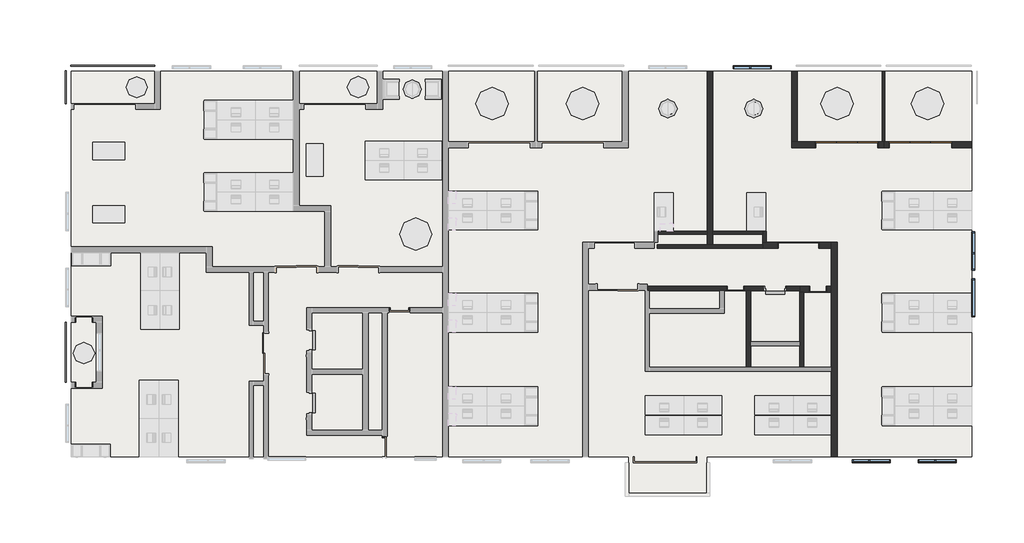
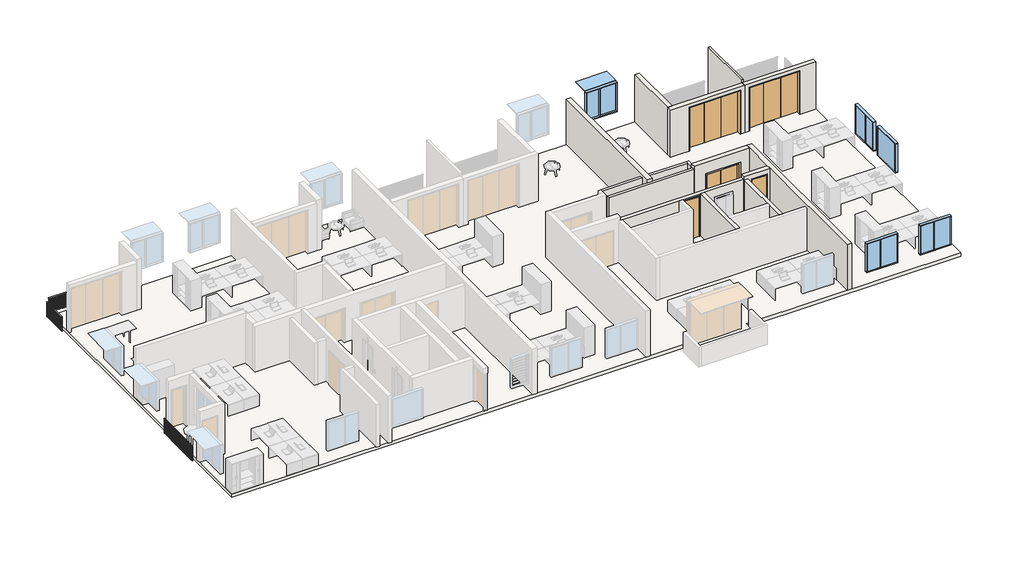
# One storey, part 2 of 5: 14 walls, 5 doors, 5 windows, 3 railings, 1 slab.
"""IFC4 building model written with IfcOpenShell, lengths in millimetres."""

from ifc_helpers import new_model, si_unit, point, frame, frame_2d, origin, place, context, project, spatial, polyline, circle_curve, trimmed, segment, composite_curve, outline, extrude, faceted_brep, transform, mapped, element, save
from components import bi_fold_dor_3_panel_3000_75a00cad, bi_fold_dor_3_panel_3000_5813971a, swing_double_metal_frame_double_2040_x_970x2_2b0cb67a, swing_metal_frame_single_dor1_c5ce34d2, swing_metal_frame_single_dor1_8b558513, window_bottom_hung_window_bottom_hung_3b05c637, window_bottom_hung_window_bottom_hung_da071f07, window_bottom_hung_window_bottom_hung_7567f9e0, window_fixed_1800mm_wide_7e584eee

model = new_model("IFC4")

# Units and contexts
model_context = context("Model", 3, world=origin())
ifc_project = project(units=[si_unit("LENGTHUNIT", "METRE", prefix="MILLI")], contexts=[model_context])

# Site, building, storey
site = spatial("IfcSite", under=ifc_project)
building = spatial("IfcBuilding", under=site)
storey = spatial("IfcBuildingStorey", under=building, Name="2階", Elevation=33000.0)

# Doors
placement = place(None, origin())
bi_fold_dor_3_panel_3000_shape = bi_fold_dor_3_panel_3000_75a00cad(model_context)
element("IfcDoor", 1, ObjectType="Bi Fold_DOR : 3 Panel - 3000", at=placement, inside=storey, context=model_context, shape_type="MappedRepresentation", body=[
    mapped(bi_fold_dor_3_panel_3000_shape, transform((42564.858031, 14994.8875971, 33000.0), x_axis=(1.0, 0.0, 0.0), y_axis=(0.0, 1.0, 0.0), z_axis=(0.0, 0.0, 1.0))),
])
bi_fold_dor_3_panel_3000_2_shape = bi_fold_dor_3_panel_3000_5813971a(model_context)
element("IfcDoor", 2, ObjectType="Bi Fold_DOR : 3 Panel - 3000", at=placement, inside=storey, context=model_context, shape_type="MappedRepresentation", body=[
    mapped(bi_fold_dor_3_panel_3000_2_shape, transform((39094.858031, 14994.8875971, 33000.0), x_axis=(-1.0, 0.0, 0.0), y_axis=(0.0, -1.0, 0.0), z_axis=(0.0, 0.0, 1.0))),
])
swing_double_metal_frame_double_2040_x_970x2_shape = swing_double_metal_frame_double_2040_x_970x2_2b0cb67a(model_context)
element("IfcDoor", 3, ObjectType="Swing_Double : Metal Frame Double - 2040 x 970x2", at=placement, inside=storey, context=model_context, shape_type="MappedRepresentation", body=[
    mapped(swing_double_metal_frame_double_2040_x_970x2_shape, transform((37043.6137391, 10265.005792, 33000.0), x_axis=(1.0, 0.0, 0.0), y_axis=(0.0, 1.0, 0.0), z_axis=(0.0, 0.0, 1.0))),
])
swing_metal_frame_single_dor1_shape = swing_metal_frame_single_dor1_c5ce34d2(model_context)
element("IfcDoor", 4, ObjectType="Swing_Metal Frame_Single_DOR1 : 2040h x 820 (2110x920 STUD)", at=placement, inside=storey, context=model_context, shape_type="MappedRepresentation", body=[
    mapped(swing_metal_frame_single_dor1_shape, transform((37747.3119975, 8195.005792, 33000.0), x_axis=(-1.0, 0.0, 0.0), y_axis=(0.0, -1.0, 0.0), z_axis=(0.0, 0.0, 1.0))),
])
swing_metal_frame_single_dor1_2_shape = swing_metal_frame_single_dor1_8b558513(model_context)
element("IfcDoor", 5, ObjectType="Swing_Metal Frame_Single_DOR1 : 2040h x 820 (2110x920 STUD)", at=placement, inside=storey, context=model_context, shape_type="MappedRepresentation", body=[
    mapped(swing_metal_frame_single_dor1_2_shape, transform((33867.3119975, 8230.005792, 33000.0), x_axis=(-1.0, 0.0, 0.0), y_axis=(0.0, -1.0, 0.0), z_axis=(0.0, 0.0, 1.0))),
])

# Railings
element("IfcRailing", 6, ObjectType="900mm", at=placement, inside=storey, context=model_context, shape_type="SweptSolid", body=[
    extrude(outline(composite_curve([segment(trimmed(circle_curve(frame_2d((18700.0, 33880.0)), 20.0), [point((18680.0, 33880.0))], [point((18720.0, 33880.0))], False, "CARTESIAN"), True, "CONTINUOUS"), segment(trimmed(circle_curve(frame_2d((18700.0, 33880.0)), 20.0), [point((18720.0, 33880.0))], [point((18680.0, 33880.0))], False, "CARTESIAN"), True, "CONTINUOUS")], self_intersect=False)), frame((2614.6057353, 0.0, 0.0), z_axis=(1.0, 0.0, 0.0), x_axis=(0.0, 1.0, 0.0)), (0.0, 0.0, 1.0), 3940.0588639),
    extrude(outline(polyline([(6509.6057353, 18695.0), (6509.6057353, 18705.0), (6519.6057353, 18705.0), (6519.6057353, 18695.0), (6509.6057353, 18695.0)])), frame((0.0, 0.0, 33000.0), z_axis=(0.0, 0.0, 1.0), x_axis=(1.0, 0.0, 0.0)), (0.0, 0.0, 1.0), 860.0),
    extrude(outline(polyline([(6409.6057353, 18695.0), (6409.6057353, 18705.0), (6419.6057353, 18705.0), (6419.6057353, 18695.0), (6409.6057353, 18695.0)])), frame((0.0, 0.0, 33000.0), z_axis=(0.0, 0.0, 1.0), x_axis=(1.0, 0.0, 0.0)), (0.0, 0.0, 1.0), 860.0),
    extrude(outline(polyline([(6309.6057353, 18695.0), (6309.6057353, 18705.0), (6319.6057353, 18705.0), (6319.6057353, 18695.0), (6309.6057353, 18695.0)])), frame((0.0, 0.0, 33000.0), z_axis=(0.0, 0.0, 1.0), x_axis=(1.0, 0.0, 0.0)), (0.0, 0.0, 1.0), 860.0),
    extrude(outline(polyline([(6209.6057353, 18695.0), (6209.6057353, 18705.0), (6219.6057353, 18705.0), (6219.6057353, 18695.0), (6209.6057353, 18695.0)])), frame((0.0, 0.0, 33000.0), z_axis=(0.0, 0.0, 1.0), x_axis=(1.0, 0.0, 0.0)), (0.0, 0.0, 1.0), 860.0),
    extrude(outline(polyline([(6109.6057353, 18695.0), (6109.6057353, 18705.0), (6119.6057353, 18705.0), (6119.6057353, 18695.0), (6109.6057353, 18695.0)])), frame((0.0, 0.0, 33000.0), z_axis=(0.0, 0.0, 1.0), x_axis=(1.0, 0.0, 0.0)), (0.0, 0.0, 1.0), 860.0),
    extrude(outline(polyline([(6009.6057353, 18695.0), (6009.6057353, 18705.0), (6019.6057353, 18705.0), (6019.6057353, 18695.0), (6009.6057353, 18695.0)])), frame((0.0, 0.0, 33000.0), z_axis=(0.0, 0.0, 1.0), x_axis=(1.0, 0.0, 0.0)), (0.0, 0.0, 1.0), 860.0),
    extrude(outline(polyline([(5909.6057353, 18695.0), (5909.6057353, 18705.0), (5919.6057353, 18705.0), (5919.6057353, 18695.0), (5909.6057353, 18695.0)])), frame((0.0, 0.0, 33000.0), z_axis=(0.0, 0.0, 1.0), x_axis=(1.0, 0.0, 0.0)), (0.0, 0.0, 1.0), 860.0),
    extrude(outline(polyline([(5809.6057353, 18695.0), (5809.6057353, 18705.0), (5819.6057353, 18705.0), (5819.6057353, 18695.0), (5809.6057353, 18695.0)])), frame((0.0, 0.0, 33000.0), z_axis=(0.0, 0.0, 1.0), x_axis=(1.0, 0.0, 0.0)), (0.0, 0.0, 1.0), 860.0),
    extrude(outline(polyline([(5709.6057353, 18695.0), (5709.6057353, 18705.0), (5719.6057353, 18705.0), (5719.6057353, 18695.0), (5709.6057353, 18695.0)])), frame((0.0, 0.0, 33000.0), z_axis=(0.0, 0.0, 1.0), x_axis=(1.0, 0.0, 0.0)), (0.0, 0.0, 1.0), 860.0),
    extrude(outline(polyline([(5609.6057353, 18695.0), (5609.6057353, 18705.0), (5619.6057353, 18705.0), (5619.6057353, 18695.0), (5609.6057353, 18695.0)])), frame((0.0, 0.0, 33000.0), z_axis=(0.0, 0.0, 1.0), x_axis=(1.0, 0.0, 0.0)), (0.0, 0.0, 1.0), 860.0),
    extrude(outline(polyline([(5509.6057353, 18695.0), (5509.6057353, 18705.0), (5519.6057353, 18705.0), (5519.6057353, 18695.0), (5509.6057353, 18695.0)])), frame((0.0, 0.0, 33000.0), z_axis=(0.0, 0.0, 1.0), x_axis=(1.0, 0.0, 0.0)), (0.0, 0.0, 1.0), 860.0),
    extrude(outline(polyline([(5409.6057353, 18695.0), (5409.6057353, 18705.0), (5419.6057353, 18705.0), (5419.6057353, 18695.0), (5409.6057353, 18695.0)])), frame((0.0, 0.0, 33000.0), z_axis=(0.0, 0.0, 1.0), x_axis=(1.0, 0.0, 0.0)), (0.0, 0.0, 1.0), 860.0),
    extrude(outline(polyline([(5309.6057353, 18695.0), (5309.6057353, 18705.0), (5319.6057353, 18705.0), (5319.6057353, 18695.0), (5309.6057353, 18695.0)])), frame((0.0, 0.0, 33000.0), z_axis=(0.0, 0.0, 1.0), x_axis=(1.0, 0.0, 0.0)), (0.0, 0.0, 1.0), 860.0),
    extrude(outline(polyline([(5209.6057353, 18695.0), (5209.6057353, 18705.0), (5219.6057353, 18705.0), (5219.6057353, 18695.0), (5209.6057353, 18695.0)])), frame((0.0, 0.0, 33000.0), z_axis=(0.0, 0.0, 1.0), x_axis=(1.0, 0.0, 0.0)), (0.0, 0.0, 1.0), 860.0),
    extrude(outline(polyline([(5109.6057353, 18695.0), (5109.6057353, 18705.0), (5119.6057353, 18705.0), (5119.6057353, 18695.0), (5109.6057353, 18695.0)])), frame((0.0, 0.0, 33000.0), z_axis=(0.0, 0.0, 1.0), x_axis=(1.0, 0.0, 0.0)), (0.0, 0.0, 1.0), 860.0),
    extrude(outline(polyline([(5009.6057353, 18695.0), (5009.6057353, 18705.0), (5019.6057353, 18705.0), (5019.6057353, 18695.0), (5009.6057353, 18695.0)])), frame((0.0, 0.0, 33000.0), z_axis=(0.0, 0.0, 1.0), x_axis=(1.0, 0.0, 0.0)), (0.0, 0.0, 1.0), 860.0),
    extrude(outline(polyline([(4909.6057353, 18695.0), (4909.6057353, 18705.0), (4919.6057353, 18705.0), (4919.6057353, 18695.0), (4909.6057353, 18695.0)])), frame((0.0, 0.0, 33000.0), z_axis=(0.0, 0.0, 1.0), x_axis=(1.0, 0.0, 0.0)), (0.0, 0.0, 1.0), 860.0),
    extrude(outline(polyline([(4809.6057353, 18695.0), (4809.6057353, 18705.0), (4819.6057353, 18705.0), (4819.6057353, 18695.0), (4809.6057353, 18695.0)])), frame((0.0, 0.0, 33000.0), z_axis=(0.0, 0.0, 1.0), x_axis=(1.0, 0.0, 0.0)), (0.0, 0.0, 1.0), 860.0),
    extrude(outline(polyline([(4709.6057353, 18695.0), (4709.6057353, 18705.0), (4719.6057353, 18705.0), (4719.6057353, 18695.0), (4709.6057353, 18695.0)])), frame((0.0, 0.0, 33000.0), z_axis=(0.0, 0.0, 1.0), x_axis=(1.0, 0.0, 0.0)), (0.0, 0.0, 1.0), 860.0),
    extrude(outline(polyline([(4609.6057353, 18695.0), (4609.6057353, 18705.0), (4619.6057353, 18705.0), (4619.6057353, 18695.0), (4609.6057353, 18695.0)])), frame((0.0, 0.0, 33000.0), z_axis=(0.0, 0.0, 1.0), x_axis=(1.0, 0.0, 0.0)), (0.0, 0.0, 1.0), 860.0),
    extrude(outline(polyline([(4509.6057353, 18695.0), (4509.6057353, 18705.0), (4519.6057353, 18705.0), (4519.6057353, 18695.0), (4509.6057353, 18695.0)])), frame((0.0, 0.0, 33000.0), z_axis=(0.0, 0.0, 1.0), x_axis=(1.0, 0.0, 0.0)), (0.0, 0.0, 1.0), 860.0),
    extrude(outline(polyline([(4409.6057353, 18695.0), (4409.6057353, 18705.0), (4419.6057353, 18705.0), (4419.6057353, 18695.0), (4409.6057353, 18695.0)])), frame((0.0, 0.0, 33000.0), z_axis=(0.0, 0.0, 1.0), x_axis=(1.0, 0.0, 0.0)), (0.0, 0.0, 1.0), 860.0),
    extrude(outline(polyline([(4309.6057353, 18695.0), (4309.6057353, 18705.0), (4319.6057353, 18705.0), (4319.6057353, 18695.0), (4309.6057353, 18695.0)])), frame((0.0, 0.0, 33000.0), z_axis=(0.0, 0.0, 1.0), x_axis=(1.0, 0.0, 0.0)), (0.0, 0.0, 1.0), 860.0),
    extrude(outline(polyline([(4209.6057353, 18695.0), (4209.6057353, 18705.0), (4219.6057353, 18705.0), (4219.6057353, 18695.0), (4209.6057353, 18695.0)])), frame((0.0, 0.0, 33000.0), z_axis=(0.0, 0.0, 1.0), x_axis=(1.0, 0.0, 0.0)), (0.0, 0.0, 1.0), 860.0),
    extrude(outline(polyline([(4109.6057353, 18695.0), (4109.6057353, 18705.0), (4119.6057353, 18705.0), (4119.6057353, 18695.0), (4109.6057353, 18695.0)])), frame((0.0, 0.0, 33000.0), z_axis=(0.0, 0.0, 1.0), x_axis=(1.0, 0.0, 0.0)), (0.0, 0.0, 1.0), 860.0),
    extrude(outline(polyline([(4009.6057353, 18695.0), (4009.6057353, 18705.0), (4019.6057353, 18705.0), (4019.6057353, 18695.0), (4009.6057353, 18695.0)])), frame((0.0, 0.0, 33000.0), z_axis=(0.0, 0.0, 1.0), x_axis=(1.0, 0.0, 0.0)), (0.0, 0.0, 1.0), 860.0),
    extrude(outline(polyline([(3909.6057353, 18695.0), (3909.6057353, 18705.0), (3919.6057353, 18705.0), (3919.6057353, 18695.0), (3909.6057353, 18695.0)])), frame((0.0, 0.0, 33000.0), z_axis=(0.0, 0.0, 1.0), x_axis=(1.0, 0.0, 0.0)), (0.0, 0.0, 1.0), 860.0),
    extrude(outline(polyline([(3809.6057353, 18695.0), (3809.6057353, 18705.0), (3819.6057353, 18705.0), (3819.6057353, 18695.0), (3809.6057353, 18695.0)])), frame((0.0, 0.0, 33000.0), z_axis=(0.0, 0.0, 1.0), x_axis=(1.0, 0.0, 0.0)), (0.0, 0.0, 1.0), 860.0),
    extrude(outline(polyline([(3709.6057353, 18695.0), (3709.6057353, 18705.0), (3719.6057353, 18705.0), (3719.6057353, 18695.0), (3709.6057353, 18695.0)])), frame((0.0, 0.0, 33000.0), z_axis=(0.0, 0.0, 1.0), x_axis=(1.0, 0.0, 0.0)), (0.0, 0.0, 1.0), 860.0),
    extrude(outline(polyline([(3609.6057353, 18695.0), (3609.6057353, 18705.0), (3619.6057353, 18705.0), (3619.6057353, 18695.0), (3609.6057353, 18695.0)])), frame((0.0, 0.0, 33000.0), z_axis=(0.0, 0.0, 1.0), x_axis=(1.0, 0.0, 0.0)), (0.0, 0.0, 1.0), 860.0),
    extrude(outline(polyline([(3509.6057353, 18695.0), (3509.6057353, 18705.0), (3519.6057353, 18705.0), (3519.6057353, 18695.0), (3509.6057353, 18695.0)])), frame((0.0, 0.0, 33000.0), z_axis=(0.0, 0.0, 1.0), x_axis=(1.0, 0.0, 0.0)), (0.0, 0.0, 1.0), 860.0),
    extrude(outline(polyline([(3409.6057353, 18695.0), (3409.6057353, 18705.0), (3419.6057353, 18705.0), (3419.6057353, 18695.0), (3409.6057353, 18695.0)])), frame((0.0, 0.0, 33000.0), z_axis=(0.0, 0.0, 1.0), x_axis=(1.0, 0.0, 0.0)), (0.0, 0.0, 1.0), 860.0),
    extrude(outline(polyline([(3309.6057353, 18695.0), (3309.6057353, 18705.0), (3319.6057353, 18705.0), (3319.6057353, 18695.0), (3309.6057353, 18695.0)])), frame((0.0, 0.0, 33000.0), z_axis=(0.0, 0.0, 1.0), x_axis=(1.0, 0.0, 0.0)), (0.0, 0.0, 1.0), 860.0),
    extrude(outline(polyline([(3209.6057353, 18695.0), (3209.6057353, 18705.0), (3219.6057353, 18705.0), (3219.6057353, 18695.0), (3209.6057353, 18695.0)])), frame((0.0, 0.0, 33000.0), z_axis=(0.0, 0.0, 1.0), x_axis=(1.0, 0.0, 0.0)), (0.0, 0.0, 1.0), 860.0),
    extrude(outline(polyline([(3109.6057353, 18695.0), (3109.6057353, 18705.0), (3119.6057353, 18705.0), (3119.6057353, 18695.0), (3109.6057353, 18695.0)])), frame((0.0, 0.0, 33000.0), z_axis=(0.0, 0.0, 1.0), x_axis=(1.0, 0.0, 0.0)), (0.0, 0.0, 1.0), 860.0),
    extrude(outline(polyline([(3009.6057353, 18695.0), (3009.6057353, 18705.0), (3019.6057353, 18705.0), (3019.6057353, 18695.0), (3009.6057353, 18695.0)])), frame((0.0, 0.0, 33000.0), z_axis=(0.0, 0.0, 1.0), x_axis=(1.0, 0.0, 0.0)), (0.0, 0.0, 1.0), 860.0),
    extrude(outline(polyline([(2909.6057353, 18695.0), (2909.6057353, 18705.0), (2919.6057353, 18705.0), (2919.6057353, 18695.0), (2909.6057353, 18695.0)])), frame((0.0, 0.0, 33000.0), z_axis=(0.0, 0.0, 1.0), x_axis=(1.0, 0.0, 0.0)), (0.0, 0.0, 1.0), 860.0),
    extrude(outline(polyline([(2809.6057353, 18695.0), (2809.6057353, 18705.0), (2819.6057353, 18705.0), (2819.6057353, 18695.0), (2809.6057353, 18695.0)])), frame((0.0, 0.0, 33000.0), z_axis=(0.0, 0.0, 1.0), x_axis=(1.0, 0.0, 0.0)), (0.0, 0.0, 1.0), 860.0),
    extrude(outline(polyline([(2709.6057353, 18695.0), (2709.6057353, 18705.0), (2719.6057353, 18705.0), (2719.6057353, 18695.0), (2709.6057353, 18695.0)])), frame((0.0, 0.0, 33000.0), z_axis=(0.0, 0.0, 1.0), x_axis=(1.0, 0.0, 0.0)), (0.0, 0.0, 1.0), 860.0),
    extrude(outline(polyline([(6539.6645991, 18695.0), (6539.6645991, 18705.0), (6549.6645991, 18705.0), (6549.6645991, 18695.0), (6539.6645991, 18695.0)])), frame((0.0, 0.0, 33000.0), z_axis=(0.0, 0.0, 1.0), x_axis=(1.0, 0.0, 0.0)), (0.0, 0.0, 1.0), 860.0),
    extrude(outline(polyline([(2619.6057353, 18695.0), (2619.6057353, 18705.0), (2629.6057353, 18705.0), (2629.6057353, 18695.0), (2619.6057353, 18695.0)])), frame((0.0, 0.0, 33000.0), z_axis=(0.0, 0.0, 1.0), x_axis=(1.0, 0.0, 0.0)), (0.0, 0.0, 1.0), 860.0),
])
element("IfcRailing", 7, ObjectType="900mm", at=placement, inside=storey, context=model_context, shape_type="SweptSolid", body=[
    extrude(outline(composite_curve([segment(trimmed(circle_curve(frame_2d((33880.0, 2379.6057353)), 20.0), [point((33880.0, 2399.6057353))], [point((33880.0, 2359.6057353))], False, "CARTESIAN"), True, "CONTINUOUS"), segment(trimmed(circle_curve(frame_2d((33880.0, 2379.6057353)), 20.0), [point((33880.0, 2359.6057353))], [point((33880.0, 2399.6057353))], False, "CARTESIAN"), True, "CONTINUOUS")], self_intersect=False)), frame((0.0, 3816.2680774, 0.0), z_axis=(0.0, 1.0, 0.0), x_axis=(0.0, 0.0, 1.0)), (0.0, 0.0, 1.0), 2834.048622),
    extrude(outline(polyline([(2384.6057353, 6611.2680774), (2374.6057353, 6611.2680774), (2374.6057353, 6621.2680774), (2384.6057353, 6621.2680774), (2384.6057353, 6611.2680774)])), frame((0.0, 0.0, 33000.0), z_axis=(0.0, 0.0, 1.0), x_axis=(1.0, 0.0, 0.0)), (0.0, 0.0, 1.0), 860.0),
    extrude(outline(polyline([(2384.6057353, 6511.2680774), (2374.6057353, 6511.2680774), (2374.6057353, 6521.2680774), (2384.6057353, 6521.2680774), (2384.6057353, 6511.2680774)])), frame((0.0, 0.0, 33000.0), z_axis=(0.0, 0.0, 1.0), x_axis=(1.0, 0.0, 0.0)), (0.0, 0.0, 1.0), 860.0),
    extrude(outline(polyline([(2384.6057353, 6411.2680774), (2374.6057353, 6411.2680774), (2374.6057353, 6421.2680774), (2384.6057353, 6421.2680774), (2384.6057353, 6411.2680774)])), frame((0.0, 0.0, 33000.0), z_axis=(0.0, 0.0, 1.0), x_axis=(1.0, 0.0, 0.0)), (0.0, 0.0, 1.0), 860.0),
    extrude(outline(polyline([(2384.6057353, 6311.2680774), (2374.6057353, 6311.2680774), (2374.6057353, 6321.2680774), (2384.6057353, 6321.2680774), (2384.6057353, 6311.2680774)])), frame((0.0, 0.0, 33000.0), z_axis=(0.0, 0.0, 1.0), x_axis=(1.0, 0.0, 0.0)), (0.0, 0.0, 1.0), 860.0),
    extrude(outline(polyline([(2384.6057353, 6211.2680774), (2374.6057353, 6211.2680774), (2374.6057353, 6221.2680774), (2384.6057353, 6221.2680774), (2384.6057353, 6211.2680774)])), frame((0.0, 0.0, 33000.0), z_axis=(0.0, 0.0, 1.0), x_axis=(1.0, 0.0, 0.0)), (0.0, 0.0, 1.0), 860.0),
    extrude(outline(polyline([(2384.6057353, 6111.2680774), (2374.6057353, 6111.2680774), (2374.6057353, 6121.2680774), (2384.6057353, 6121.2680774), (2384.6057353, 6111.2680774)])), frame((0.0, 0.0, 33000.0), z_axis=(0.0, 0.0, 1.0), x_axis=(1.0, 0.0, 0.0)), (0.0, 0.0, 1.0), 860.0),
    extrude(outline(polyline([(2384.6057353, 6011.2680774), (2374.6057353, 6011.2680774), (2374.6057353, 6021.2680774), (2384.6057353, 6021.2680774), (2384.6057353, 6011.2680774)])), frame((0.0, 0.0, 33000.0), z_axis=(0.0, 0.0, 1.0), x_axis=(1.0, 0.0, 0.0)), (0.0, 0.0, 1.0), 860.0),
    extrude(outline(polyline([(2384.6057353, 5911.2680774), (2374.6057353, 5911.2680774), (2374.6057353, 5921.2680774), (2384.6057353, 5921.2680774), (2384.6057353, 5911.2680774)])), frame((0.0, 0.0, 33000.0), z_axis=(0.0, 0.0, 1.0), x_axis=(1.0, 0.0, 0.0)), (0.0, 0.0, 1.0), 860.0),
    extrude(outline(polyline([(2384.6057353, 5811.2680774), (2374.6057353, 5811.2680774), (2374.6057353, 5821.2680774), (2384.6057353, 5821.2680774), (2384.6057353, 5811.2680774)])), frame((0.0, 0.0, 33000.0), z_axis=(0.0, 0.0, 1.0), x_axis=(1.0, 0.0, 0.0)), (0.0, 0.0, 1.0), 860.0),
    extrude(outline(polyline([(2384.6057353, 5711.2680774), (2374.6057353, 5711.2680774), (2374.6057353, 5721.2680774), (2384.6057353, 5721.2680774), (2384.6057353, 5711.2680774)])), frame((0.0, 0.0, 33000.0), z_axis=(0.0, 0.0, 1.0), x_axis=(1.0, 0.0, 0.0)), (0.0, 0.0, 1.0), 860.0),
    extrude(outline(polyline([(2384.6057353, 5611.2680774), (2374.6057353, 5611.2680774), (2374.6057353, 5621.2680774), (2384.6057353, 5621.2680774), (2384.6057353, 5611.2680774)])), frame((0.0, 0.0, 33000.0), z_axis=(0.0, 0.0, 1.0), x_axis=(1.0, 0.0, 0.0)), (0.0, 0.0, 1.0), 860.0),
    extrude(outline(polyline([(2384.6057353, 5511.2680774), (2374.6057353, 5511.2680774), (2374.6057353, 5521.2680774), (2384.6057353, 5521.2680774), (2384.6057353, 5511.2680774)])), frame((0.0, 0.0, 33000.0), z_axis=(0.0, 0.0, 1.0), x_axis=(1.0, 0.0, 0.0)), (0.0, 0.0, 1.0), 860.0),
    extrude(outline(polyline([(2384.6057353, 5411.2680774), (2374.6057353, 5411.2680774), (2374.6057353, 5421.2680774), (2384.6057353, 5421.2680774), (2384.6057353, 5411.2680774)])), frame((0.0, 0.0, 33000.0), z_axis=(0.0, 0.0, 1.0), x_axis=(1.0, 0.0, 0.0)), (0.0, 0.0, 1.0), 860.0),
    extrude(outline(polyline([(2384.6057353, 5311.2680774), (2374.6057353, 5311.2680774), (2374.6057353, 5321.2680774), (2384.6057353, 5321.2680774), (2384.6057353, 5311.2680774)])), frame((0.0, 0.0, 33000.0), z_axis=(0.0, 0.0, 1.0), x_axis=(1.0, 0.0, 0.0)), (0.0, 0.0, 1.0), 860.0),
    extrude(outline(polyline([(2384.6057353, 5211.2680774), (2374.6057353, 5211.2680774), (2374.6057353, 5221.2680774), (2384.6057353, 5221.2680774), (2384.6057353, 5211.2680774)])), frame((0.0, 0.0, 33000.0), z_axis=(0.0, 0.0, 1.0), x_axis=(1.0, 0.0, 0.0)), (0.0, 0.0, 1.0), 860.0),
    extrude(outline(polyline([(2384.6057353, 5111.2680774), (2374.6057353, 5111.2680774), (2374.6057353, 5121.2680774), (2384.6057353, 5121.2680774), (2384.6057353, 5111.2680774)])), frame((0.0, 0.0, 33000.0), z_axis=(0.0, 0.0, 1.0), x_axis=(1.0, 0.0, 0.0)), (0.0, 0.0, 1.0), 860.0),
    extrude(outline(polyline([(2384.6057353, 5011.2680774), (2374.6057353, 5011.2680774), (2374.6057353, 5021.2680774), (2384.6057353, 5021.2680774), (2384.6057353, 5011.2680774)])), frame((0.0, 0.0, 33000.0), z_axis=(0.0, 0.0, 1.0), x_axis=(1.0, 0.0, 0.0)), (0.0, 0.0, 1.0), 860.0),
    extrude(outline(polyline([(2384.6057353, 4911.2680774), (2374.6057353, 4911.2680774), (2374.6057353, 4921.2680774), (2384.6057353, 4921.2680774), (2384.6057353, 4911.2680774)])), frame((0.0, 0.0, 33000.0), z_axis=(0.0, 0.0, 1.0), x_axis=(1.0, 0.0, 0.0)), (0.0, 0.0, 1.0), 860.0),
    extrude(outline(polyline([(2384.6057353, 4811.2680774), (2374.6057353, 4811.2680774), (2374.6057353, 4821.2680774), (2384.6057353, 4821.2680774), (2384.6057353, 4811.2680774)])), frame((0.0, 0.0, 33000.0), z_axis=(0.0, 0.0, 1.0), x_axis=(1.0, 0.0, 0.0)), (0.0, 0.0, 1.0), 860.0),
    extrude(outline(polyline([(2384.6057353, 4711.2680774), (2374.6057353, 4711.2680774), (2374.6057353, 4721.2680774), (2384.6057353, 4721.2680774), (2384.6057353, 4711.2680774)])), frame((0.0, 0.0, 33000.0), z_axis=(0.0, 0.0, 1.0), x_axis=(1.0, 0.0, 0.0)), (0.0, 0.0, 1.0), 860.0),
    extrude(outline(polyline([(2384.6057353, 4611.2680774), (2374.6057353, 4611.2680774), (2374.6057353, 4621.2680774), (2384.6057353, 4621.2680774), (2384.6057353, 4611.2680774)])), frame((0.0, 0.0, 33000.0), z_axis=(0.0, 0.0, 1.0), x_axis=(1.0, 0.0, 0.0)), (0.0, 0.0, 1.0), 860.0),
    extrude(outline(polyline([(2384.6057353, 4511.2680774), (2374.6057353, 4511.2680774), (2374.6057353, 4521.2680774), (2384.6057353, 4521.2680774), (2384.6057353, 4511.2680774)])), frame((0.0, 0.0, 33000.0), z_axis=(0.0, 0.0, 1.0), x_axis=(1.0, 0.0, 0.0)), (0.0, 0.0, 1.0), 860.0),
    extrude(outline(polyline([(2384.6057353, 4411.2680774), (2374.6057353, 4411.2680774), (2374.6057353, 4421.2680774), (2384.6057353, 4421.2680774), (2384.6057353, 4411.2680774)])), frame((0.0, 0.0, 33000.0), z_axis=(0.0, 0.0, 1.0), x_axis=(1.0, 0.0, 0.0)), (0.0, 0.0, 1.0), 860.0),
    extrude(outline(polyline([(2384.6057353, 4311.2680774), (2374.6057353, 4311.2680774), (2374.6057353, 4321.2680774), (2384.6057353, 4321.2680774), (2384.6057353, 4311.2680774)])), frame((0.0, 0.0, 33000.0), z_axis=(0.0, 0.0, 1.0), x_axis=(1.0, 0.0, 0.0)), (0.0, 0.0, 1.0), 860.0),
    extrude(outline(polyline([(2384.6057353, 4211.2680774), (2374.6057353, 4211.2680774), (2374.6057353, 4221.2680774), (2384.6057353, 4221.2680774), (2384.6057353, 4211.2680774)])), frame((0.0, 0.0, 33000.0), z_axis=(0.0, 0.0, 1.0), x_axis=(1.0, 0.0, 0.0)), (0.0, 0.0, 1.0), 860.0),
    extrude(outline(polyline([(2384.6057353, 4111.2680774), (2374.6057353, 4111.2680774), (2374.6057353, 4121.2680774), (2384.6057353, 4121.2680774), (2384.6057353, 4111.2680774)])), frame((0.0, 0.0, 33000.0), z_axis=(0.0, 0.0, 1.0), x_axis=(1.0, 0.0, 0.0)), (0.0, 0.0, 1.0), 860.0),
    extrude(outline(polyline([(2384.6057353, 4011.2680774), (2374.6057353, 4011.2680774), (2374.6057353, 4021.2680774), (2384.6057353, 4021.2680774), (2384.6057353, 4011.2680774)])), frame((0.0, 0.0, 33000.0), z_axis=(0.0, 0.0, 1.0), x_axis=(1.0, 0.0, 0.0)), (0.0, 0.0, 1.0), 860.0),
    extrude(outline(polyline([(2384.6057353, 3911.2680774), (2374.6057353, 3911.2680774), (2374.6057353, 3921.2680774), (2384.6057353, 3921.2680774), (2384.6057353, 3911.2680774)])), frame((0.0, 0.0, 33000.0), z_axis=(0.0, 0.0, 1.0), x_axis=(1.0, 0.0, 0.0)), (0.0, 0.0, 1.0), 860.0),
    extrude(outline(polyline([(2384.6057353, 6635.3166994), (2374.6057353, 6635.3166994), (2374.6057353, 6645.3166994), (2384.6057353, 6645.3166994), (2384.6057353, 6635.3166994)])), frame((0.0, 0.0, 33000.0), z_axis=(0.0, 0.0, 1.0), x_axis=(1.0, 0.0, 0.0)), (0.0, 0.0, 1.0), 860.0),
    extrude(outline(polyline([(2384.6057353, 3821.2680774), (2374.6057353, 3821.2680774), (2374.6057353, 3831.2680774), (2384.6057353, 3831.2680774), (2384.6057353, 3821.2680774)])), frame((0.0, 0.0, 33000.0), z_axis=(0.0, 0.0, 1.0), x_axis=(1.0, 0.0, 0.0)), (0.0, 0.0, 1.0), 860.0),
])
element("IfcRailing", 8, ObjectType="900mm", at=placement, inside=storey, context=model_context, shape_type="SweptSolid", body=[
    extrude(outline(composite_curve([segment(trimmed(circle_curve(frame_2d((33880.0, 2379.6057353)), 20.0), [point((33880.0, 2399.6057353))], [point((33880.0, 2359.6057353))], False, "CARTESIAN"), True, "CONTINUOUS"), segment(trimmed(circle_curve(frame_2d((33880.0, 2379.6057353)), 20.0), [point((33880.0, 2359.6057353))], [point((33880.0, 2399.6057353))], False, "CARTESIAN"), True, "CONTINUOUS")], self_intersect=False)), frame((0.0, 16929.8875971, 0.0), z_axis=(0.0, 1.0, 0.0), x_axis=(0.0, 0.0, 1.0)), (0.0, 0.0, 1.0), 1535.1124029),
    extrude(outline(polyline([(2384.6057353, 18424.8875971), (2374.6057353, 18424.8875971), (2374.6057353, 18434.8875971), (2384.6057353, 18434.8875971), (2384.6057353, 18424.8875971)])), frame((0.0, 0.0, 33000.0), z_axis=(0.0, 0.0, 1.0), x_axis=(1.0, 0.0, 0.0)), (0.0, 0.0, 1.0), 860.0),
    extrude(outline(polyline([(2384.6057353, 18324.8875971), (2374.6057353, 18324.8875971), (2374.6057353, 18334.8875971), (2384.6057353, 18334.8875971), (2384.6057353, 18324.8875971)])), frame((0.0, 0.0, 33000.0), z_axis=(0.0, 0.0, 1.0), x_axis=(1.0, 0.0, 0.0)), (0.0, 0.0, 1.0), 860.0),
    extrude(outline(polyline([(2384.6057353, 18224.8875971), (2374.6057353, 18224.8875971), (2374.6057353, 18234.8875971), (2384.6057353, 18234.8875971), (2384.6057353, 18224.8875971)])), frame((0.0, 0.0, 33000.0), z_axis=(0.0, 0.0, 1.0), x_axis=(1.0, 0.0, 0.0)), (0.0, 0.0, 1.0), 860.0),
    extrude(outline(polyline([(2384.6057353, 18124.8875971), (2374.6057353, 18124.8875971), (2374.6057353, 18134.8875971), (2384.6057353, 18134.8875971), (2384.6057353, 18124.8875971)])), frame((0.0, 0.0, 33000.0), z_axis=(0.0, 0.0, 1.0), x_axis=(1.0, 0.0, 0.0)), (0.0, 0.0, 1.0), 860.0),
    extrude(outline(polyline([(2384.6057353, 18024.8875971), (2374.6057353, 18024.8875971), (2374.6057353, 18034.8875971), (2384.6057353, 18034.8875971), (2384.6057353, 18024.8875971)])), frame((0.0, 0.0, 33000.0), z_axis=(0.0, 0.0, 1.0), x_axis=(1.0, 0.0, 0.0)), (0.0, 0.0, 1.0), 860.0),
    extrude(outline(polyline([(2384.6057353, 17924.8875971), (2374.6057353, 17924.8875971), (2374.6057353, 17934.8875971), (2384.6057353, 17934.8875971), (2384.6057353, 17924.8875971)])), frame((0.0, 0.0, 33000.0), z_axis=(0.0, 0.0, 1.0), x_axis=(1.0, 0.0, 0.0)), (0.0, 0.0, 1.0), 860.0),
    extrude(outline(polyline([(2384.6057353, 17824.8875971), (2374.6057353, 17824.8875971), (2374.6057353, 17834.8875971), (2384.6057353, 17834.8875971), (2384.6057353, 17824.8875971)])), frame((0.0, 0.0, 33000.0), z_axis=(0.0, 0.0, 1.0), x_axis=(1.0, 0.0, 0.0)), (0.0, 0.0, 1.0), 860.0),
    extrude(outline(polyline([(2384.6057353, 17724.8875971), (2374.6057353, 17724.8875971), (2374.6057353, 17734.8875971), (2384.6057353, 17734.8875971), (2384.6057353, 17724.8875971)])), frame((0.0, 0.0, 33000.0), z_axis=(0.0, 0.0, 1.0), x_axis=(1.0, 0.0, 0.0)), (0.0, 0.0, 1.0), 860.0),
    extrude(outline(polyline([(2384.6057353, 17624.8875971), (2374.6057353, 17624.8875971), (2374.6057353, 17634.8875971), (2384.6057353, 17634.8875971), (2384.6057353, 17624.8875971)])), frame((0.0, 0.0, 33000.0), z_axis=(0.0, 0.0, 1.0), x_axis=(1.0, 0.0, 0.0)), (0.0, 0.0, 1.0), 860.0),
    extrude(outline(polyline([(2384.6057353, 17524.8875971), (2374.6057353, 17524.8875971), (2374.6057353, 17534.8875971), (2384.6057353, 17534.8875971), (2384.6057353, 17524.8875971)])), frame((0.0, 0.0, 33000.0), z_axis=(0.0, 0.0, 1.0), x_axis=(1.0, 0.0, 0.0)), (0.0, 0.0, 1.0), 860.0),
    extrude(outline(polyline([(2384.6057353, 17424.8875971), (2374.6057353, 17424.8875971), (2374.6057353, 17434.8875971), (2384.6057353, 17434.8875971), (2384.6057353, 17424.8875971)])), frame((0.0, 0.0, 33000.0), z_axis=(0.0, 0.0, 1.0), x_axis=(1.0, 0.0, 0.0)), (0.0, 0.0, 1.0), 860.0),
    extrude(outline(polyline([(2384.6057353, 17324.8875971), (2374.6057353, 17324.8875971), (2374.6057353, 17334.8875971), (2384.6057353, 17334.8875971), (2384.6057353, 17324.8875971)])), frame((0.0, 0.0, 33000.0), z_axis=(0.0, 0.0, 1.0), x_axis=(1.0, 0.0, 0.0)), (0.0, 0.0, 1.0), 860.0),
    extrude(outline(polyline([(2384.6057353, 17224.8875971), (2374.6057353, 17224.8875971), (2374.6057353, 17234.8875971), (2384.6057353, 17234.8875971), (2384.6057353, 17224.8875971)])), frame((0.0, 0.0, 33000.0), z_axis=(0.0, 0.0, 1.0), x_axis=(1.0, 0.0, 0.0)), (0.0, 0.0, 1.0), 860.0),
    extrude(outline(polyline([(2384.6057353, 17124.8875971), (2374.6057353, 17124.8875971), (2374.6057353, 17134.8875971), (2384.6057353, 17134.8875971), (2384.6057353, 17124.8875971)])), frame((0.0, 0.0, 33000.0), z_axis=(0.0, 0.0, 1.0), x_axis=(1.0, 0.0, 0.0)), (0.0, 0.0, 1.0), 860.0),
    extrude(outline(polyline([(2384.6057353, 17024.8875971), (2374.6057353, 17024.8875971), (2374.6057353, 17034.8875971), (2384.6057353, 17034.8875971), (2384.6057353, 17024.8875971)])), frame((0.0, 0.0, 33000.0), z_axis=(0.0, 0.0, 1.0), x_axis=(1.0, 0.0, 0.0)), (0.0, 0.0, 1.0), 860.0),
    extrude(outline(polyline([(2384.6057353, 18450.0), (2374.6057353, 18450.0), (2374.6057353, 18460.0), (2384.6057353, 18460.0), (2384.6057353, 18450.0)])), frame((0.0, 0.0, 33000.0), z_axis=(0.0, 0.0, 1.0), x_axis=(1.0, 0.0, 0.0)), (0.0, 0.0, 1.0), 860.0),
    extrude(outline(polyline([(2384.6057353, 16934.8875971), (2374.6057353, 16934.8875971), (2374.6057353, 16944.8875971), (2384.6057353, 16944.8875971), (2384.6057353, 16934.8875971)])), frame((0.0, 0.0, 33000.0), z_axis=(0.0, 0.0, 1.0), x_axis=(1.0, 0.0, 0.0)), (0.0, 0.0, 1.0), 860.0),
])

# Slab
element("IfcSlab", 9, ObjectType="Concept Floor_200mm", at=placement, inside=storey, context=model_context, shape_type="SweptSolid", body=[
    extrude(outline(polyline([(32514.8807277, 309.0898177), (32514.8807277, -1385.0), (28838.2012748, -1385.0), (28838.2012748, 309.0898177), (2639.6057353, 309.0898177), (2639.6057353, 18440.0), (44965.0, 18440.0), (44965.0, 309.0898177), (32514.8807277, 309.0898177)])), frame((0.0, 0.0, 32800.0), z_axis=(0.0, 0.0, 1.0), x_axis=(1.0, 0.0, 0.0)), (0.0, 0.0, 1.0), 200.0),
])

# Walls
element("IfcWall", 10, ObjectType="Brickwork_Double_270mm", at=placement, inside=storey, context=model_context, shape_type="Brep", body=[
    faceted_brep([(38647.4654784, 309.0898177, 33000.0), (38647.4654784, 10400.005792, 33000.0), (38647.4654784, 10400.005792, 35800.0), (38647.4654784, 309.0898177, 35800.0), (38377.4654784, 309.0898177, 33000.0), (38377.4654784, 309.0898177, 35800.0), (38377.4654784, 8060.005792, 35800.0), (38377.4654784, 8330.005792, 35800.0), (38377.4654784, 10130.005792, 35800.0), (38377.4654784, 10400.005792, 35800.0), (38377.4654784, 10400.005792, 33000.0), (38377.4654784, 10130.005792, 33000.0), (38377.4654784, 8330.005792, 33000.0), (38377.4654784, 8060.005792, 33000.0), (38377.4654784, 4530.005792, 33000.0), (38377.4654784, 4330.005792, 33000.0)], [[[0, 1, 2, 3]], [[4, 5, 6, 7, 8, 9, 10, 11, 12, 13, 14, 15]], [[1, 0, 4, 15, 14, 13, 12, 11, 10]], [[3, 2, 9, 8, 7, 6, 5]], [[0, 3, 5, 4]], [[2, 1, 10, 9]]]),
])
element("IfcWall", 11, ObjectType="Brickwork_Double_270mm", at=placement, inside=storey, context=model_context, shape_type="Brep", body=[
    faceted_brep([(32799.8807277, 10280.005792, 33000.0), (32799.8807277, 10780.0213727, 33000.0), (32799.8807277, 10930.0213727, 33000.0), (32799.8807277, 18440.0, 33000.0), (32799.8807277, 18440.0, 35800.0), (32799.8807277, 10280.005792, 35800.0), (32529.8807277, 10280.005792, 33000.0), (32529.8807277, 10280.005792, 35800.0), (32529.8807277, 18440.0, 35800.0), (32529.8807277, 18440.0, 33000.0), (32529.8807277, 10930.0213727, 33000.0), (32529.8807277, 10780.0213727, 33000.0)], [[[0, 1, 2, 3, 4, 5]], [[6, 7, 8, 9, 10, 11]], [[3, 2, 1, 0, 6, 11, 10, 9]], [[5, 4, 8, 7]], [[4, 3, 9, 8]], [[0, 5, 7, 6]]]),
])
element("IfcWall", 12, ObjectType="Brickwork_Double_270mm", at=placement, inside=storey, context=model_context, shape_type="Brep", body=[
    faceted_brep([(35151.7619997, 10130.005792, 33000.0), (35832.1137391, 10130.005792, 33000.0), (35832.1137391, 10130.005792, 35090.0), (37832.1137391, 10130.005792, 35090.0), (37832.1137391, 10130.005792, 33000.0), (38377.4654784, 10130.005792, 33000.0), (38377.4654784, 10130.005792, 35800.0), (35151.7619997, 10130.005792, 35800.0), (35832.1137391, 10400.005792, 35090.0), (35832.1137391, 10400.005792, 33000.0), (35301.7619997, 10400.005792, 33000.0), (35151.7619997, 10400.005792, 33000.0), (35151.7619997, 10400.005792, 35600.0), (35151.7619997, 10400.005792, 35800.0), (38377.4654784, 10400.005792, 35800.0), (38377.4654784, 10400.005792, 33000.0), (37832.1137391, 10400.005792, 33000.0), (37832.1137391, 10400.005792, 35090.0), (35151.7619997, 10280.005792, 33000.0)], [[[0, 1, 2, 3, 4, 5, 6, 7]], [[8, 9, 10, 11, 12, 13, 14, 15, 16, 17]], [[16, 15, 5, 4]], [[11, 10, 9, 1, 0, 18]], [[7, 6, 14, 13]], [[0, 7, 13, 12, 11, 18]], [[2, 1, 9, 8]], [[3, 2, 8, 17]], [[4, 3, 17, 16]], [[6, 5, 15, 14]]]),
])
element("IfcWall", 13, ObjectType="Brickwork_Double_270mm", at=placement, inside=storey, context=model_context, shape_type="Brep", body=[
    faceted_brep([(36506.5601806, 15129.8875971, 35900.0), (36776.5601806, 15129.8875971, 35900.0), (40829.858031, 15129.8875971, 35900.0), (40829.858031, 15129.8875971, 33000.0), (40774.858031, 15129.8875971, 33000.0), (40594.858031, 15129.8875971, 33000.0), (40594.858031, 15129.8875971, 35700.0), (37594.858031, 15129.8875971, 35700.0), (37594.858031, 15129.8875971, 33000.0), (36776.5601806, 15129.8875971, 33000.0), (36506.5601806, 15129.8875971, 33000.0), (40829.858031, 14859.8875971, 35900.0), (36506.5601806, 14859.8875971, 35900.0), (36506.5601806, 14859.8875971, 33000.0), (37594.858031, 14859.8875971, 33000.0), (37594.858031, 14859.8875971, 35700.0), (40594.858031, 14859.8875971, 35700.0), (40594.858031, 14859.8875971, 33000.0), (40829.858031, 14859.8875971, 33000.0)], [[[0, 1, 2, 3, 4, 5, 6, 7, 8, 9, 10]], [[11, 12, 13, 14, 15, 16, 17, 18]], [[13, 10, 9, 8, 14]], [[3, 18, 17, 5, 4]], [[2, 1, 0, 12, 11]], [[3, 2, 11, 18]], [[0, 10, 13, 12]], [[7, 15, 14, 8]], [[15, 7, 6, 16]], [[16, 6, 5, 17]]]),
])
element("IfcWall", 14, ObjectType="Brickwork_Double_270mm", at=placement, inside=storey, context=model_context, shape_type="Brep", body=[
    faceted_brep([(36776.5601806, 15129.8875971, 33000.0), (36776.5601806, 18440.0, 33000.0), (36776.5601806, 18440.0, 35700.0), (36776.5601806, 18440.0, 35900.0), (36776.5601806, 15129.8875971, 35900.0), (36506.5601806, 15129.8875971, 33000.0), (36506.5601806, 15129.8875971, 35900.0), (36506.5601806, 18440.0, 35900.0), (36506.5601806, 18440.0, 33000.0)], [[[0, 1, 2, 3, 4]], [[5, 6, 7, 8]], [[1, 0, 5, 8]], [[4, 3, 7, 6]], [[0, 4, 6, 5]], [[3, 2, 1, 8, 7]]]),
])
element("IfcWall", 15, ObjectType="Brickwork_Double_270mm", at=placement, inside=storey, context=model_context, shape_type="Brep", body=[
    faceted_brep([(38377.4654784, 8060.005792, 35800.0), (36882.1585166, 8060.005792, 35800.0), (36882.1585166, 8060.005792, 35600.0), (36882.1585166, 8060.005792, 33000.0), (37082.1585166, 8060.005792, 33000.0), (37307.3119975, 8060.005792, 33000.0), (37307.3119975, 8060.005792, 35490.0), (38187.3119975, 8060.005792, 35490.0), (38187.3119975, 8060.005792, 33000.0), (38377.4654784, 8060.005792, 33000.0), (36882.1585166, 8330.005792, 35800.0), (38377.4654784, 8330.005792, 35800.0), (38377.4654784, 8330.005792, 33000.0), (38187.3119975, 8330.005792, 33000.0), (38187.3119975, 8330.005792, 35490.0), (37307.3119975, 8330.005792, 35490.0), (37307.3119975, 8330.005792, 33000.0), (36882.1585166, 8330.005792, 33000.0), (36882.1585166, 8130.005792, 33000.0)], [[[0, 1, 2, 3, 4, 5, 6, 7, 8, 9]], [[10, 11, 12, 13, 14, 15, 16, 17]], [[12, 9, 8, 13]], [[3, 18, 17, 16, 5, 4]], [[1, 0, 11, 10]], [[0, 9, 12, 11]], [[3, 2, 1, 10, 17, 18]], [[15, 6, 5, 16]], [[6, 15, 14, 7]], [[7, 14, 13, 8]]]),
])
element("IfcWall", 16, ObjectType="Brickwork_Double_270mm", at=placement, inside=storey, context=model_context, shape_type="Brep", body=[
    faceted_brep([(44965.0, 14859.8875971, 35900.0), (40829.858031, 14859.8875971, 35900.0), (40829.858031, 14859.8875971, 33000.0), (41064.858031, 14859.8875971, 33000.0), (41064.858031, 14859.8875971, 35700.0), (44064.858031, 14859.8875971, 35700.0), (44064.858031, 14859.8875971, 33000.0), (44965.0, 14859.8875971, 33000.0), (40829.858031, 15129.8875971, 35900.0), (44965.0, 15129.8875971, 35900.0), (44965.0, 15129.8875971, 33000.0), (44064.858031, 15129.8875971, 33000.0), (44064.858031, 15129.8875971, 35700.0), (41064.858031, 15129.8875971, 35700.0), (41064.858031, 15129.8875971, 33000.0), (40884.858031, 15129.8875971, 33000.0), (40829.858031, 15129.8875971, 33000.0)], [[[0, 1, 2, 3, 4, 5, 6, 7]], [[8, 9, 10, 11, 12, 13, 14, 15, 16]], [[2, 16, 15, 14, 3]], [[10, 7, 6, 11]], [[1, 0, 9, 8]], [[2, 1, 8, 16]], [[5, 12, 11, 6]], [[12, 5, 4, 13]], [[13, 4, 3, 14]], [[0, 7, 10, 9]]]),
])
element("IfcWall", 17, ObjectType="Brickwork_Single_110mm", at=placement, inside=storey, context=model_context, shape_type="Brep", body=[
    faceted_brep([(40884.858031, 15129.8875971, 33000.0), (40884.858031, 18440.0, 33000.0), (40884.858031, 18440.0, 36100.0), (40884.858031, 15129.8875971, 36100.0), (40774.858031, 15129.8875971, 33000.0), (40774.858031, 15129.8875971, 36100.0), (40774.858031, 18440.0, 36100.0), (40774.858031, 18440.0, 33000.0), (40829.858031, 15129.8875971, 33000.0)], [[[0, 1, 2, 3]], [[4, 5, 6, 7]], [[1, 0, 8, 4, 7]], [[3, 2, 6, 5]], [[0, 3, 5, 4, 8]], [[2, 1, 7, 6]]]),
])
element("IfcWall", 18, ObjectType="C1 - Concrete Type 2", at=placement, inside=storey, context=model_context, shape_type="Brep", body=[
    faceted_brep([(34382.1585166, 8130.005792, 33000.0), (34382.1585166, 4530.005792, 33000.0), (34382.1585166, 4530.005792, 35600.0), (34382.1585166, 8130.005792, 35600.0), (34582.1585166, 8130.005792, 33000.0), (34582.1585166, 8130.005792, 35600.0), (34582.1585166, 5730.005792, 35600.0), (34582.1585166, 5530.005792, 35600.0), (34582.1585166, 4530.005792, 35600.0), (34582.1585166, 4530.005792, 33000.0), (34582.1585166, 5530.005792, 33000.0), (34582.1585166, 5730.005792, 33000.0)], [[[0, 1, 2, 3]], [[4, 5, 6, 7, 8, 9, 10, 11]], [[1, 0, 4, 11, 10, 9]], [[3, 2, 8, 7, 6, 5]], [[0, 3, 5, 4]], [[2, 1, 9, 8]]]),
])
element("IfcWall", 19, ObjectType="C1 - Concrete Type 2", at=placement, inside=storey, context=model_context, shape_type="SweptSolid", body=[
    extrude(outline(polyline([(36882.1585166, 4530.005792), (36882.1585166, 8060.005792), (37082.1585166, 8060.005792), (37082.1585166, 4530.005792), (36882.1585166, 4530.005792)])), frame((0.0, 0.0, 33000.0), z_axis=(0.0, 0.0, 1.0), x_axis=(1.0, 0.0, 0.0)), (0.0, 0.0, 1.0), 2600.0),
])
element("IfcWall", 20, ObjectType="C1 - Concrete Type 2", at=placement, inside=storey, context=model_context, shape_type="Brep", body=[
    faceted_brep([(36882.1585166, 8130.005792, 35600.0), (34582.1585166, 8130.005792, 35600.0), (34382.1585166, 8130.005792, 35600.0), (33332.1585166, 8130.005792, 35600.0), (33132.1585166, 8130.005792, 35600.0), (29822.1585166, 8130.005792, 35600.0), (29722.1585166, 8130.005792, 35600.0), (29722.1585166, 8130.005792, 33000.0), (29822.1585166, 8130.005792, 33000.0), (33132.1585166, 8130.005792, 33000.0), (33332.1585166, 8130.005792, 33000.0), (33427.3119975, 8130.005792, 33000.0), (33427.3119975, 8130.005792, 35490.0), (34307.3119975, 8130.005792, 35490.0), (34307.3119975, 8130.005792, 33000.0), (34382.1585166, 8130.005792, 33000.0), (34582.1585166, 8130.005792, 33000.0), (35182.1585166, 8130.005792, 33000.0), (35182.1585166, 8130.005792, 35100.0), (36282.1585166, 8130.005792, 35100.0), (36282.1585166, 8130.005792, 33000.0), (36882.1585166, 8130.005792, 33000.0), (29722.1585166, 8330.005792, 35600.0), (36882.1585166, 8330.005792, 35600.0), (36882.1585166, 8330.005792, 33000.0), (36282.1585166, 8330.005792, 33000.0), (36282.1585166, 8330.005792, 35100.0), (35182.1585166, 8330.005792, 35100.0), (35182.1585166, 8330.005792, 33000.0), (34307.3119975, 8330.005792, 33000.0), (34307.3119975, 8330.005792, 35490.0), (33427.3119975, 8330.005792, 35490.0), (33427.3119975, 8330.005792, 33000.0), (29722.1585166, 8330.005792, 33000.0), (36412.1585166, 8330.005792, 33900.0), (36412.1585166, 8330.005792, 33700.0), (36512.1585166, 8330.005792, 33700.0), (36512.1585166, 8330.005792, 33900.0), (35682.1585166, 8330.005792, 35400.0), (35682.1585166, 8330.005792, 35200.0), (35782.1585166, 8330.005792, 35200.0), (35782.1585166, 8330.005792, 35400.0), (29722.1585166, 8160.005792, 33000.0), (29722.1585166, 8160.005792, 35600.0), (36412.1585166, 8310.005792, 33700.0), (36412.1585166, 8310.005792, 33900.0), (36512.1585166, 8310.005792, 33900.0), (36512.1585166, 8310.005792, 33700.0), (35682.1585166, 8310.005792, 35200.0), (35682.1585166, 8310.005792, 35400.0), (35782.1585166, 8310.005792, 35400.0), (35782.1585166, 8310.005792, 35200.0)], [[[0, 1, 2, 3, 4, 5, 6, 7, 8, 9, 10, 11, 12, 13, 14, 15, 16, 17, 18, 19, 20, 21]], [[22, 23, 24, 25, 26, 27, 28, 29, 30, 31, 32, 33], [34, 35, 36, 37], [38, 39, 40, 41]], [[21, 20, 25, 24]], [[28, 17, 16, 15, 14, 29]], [[7, 42, 33, 32, 11, 10, 9, 8]], [[6, 5, 4, 3, 2, 1, 0, 23, 22, 43]], [[7, 6, 43, 22, 33, 42]], [[19, 26, 25, 20]], [[27, 18, 17, 28]], [[26, 19, 18, 27]], [[44, 45, 46, 47]], [[45, 44, 35, 34]], [[46, 45, 34, 37]], [[47, 46, 37, 36]], [[44, 47, 36, 35]], [[48, 49, 50, 51]], [[49, 48, 39, 38]], [[50, 49, 38, 41]], [[51, 50, 41, 40]], [[48, 51, 40, 39]], [[0, 21, 24, 23]], [[31, 12, 11, 32]], [[12, 31, 30, 13]], [[13, 30, 29, 14]]]),
])
element("IfcWall", 21, ObjectType="C5 - Concrete Type 5 150mm", at=placement, inside=storey, context=model_context, shape_type="Brep", body=[
    faceted_brep([(35151.7619997, 10280.005792, 33000.0), (32799.8807277, 10280.005792, 33000.0), (32529.8807277, 10280.005792, 33000.0), (30187.1585166, 10280.005792, 33000.0), (30187.1585166, 10280.005792, 35600.0), (35151.7619997, 10280.005792, 35600.0), (35151.7619997, 10130.005792, 33000.0), (35151.7619997, 10130.005792, 35600.0), (30187.1585166, 10130.005792, 35600.0), (30187.1585166, 10130.005792, 33000.0)], [[[0, 1, 2, 3, 4, 5]], [[6, 7, 8, 9]], [[3, 2, 1, 0, 6, 9]], [[5, 4, 8, 7]], [[0, 5, 7, 6]], [[4, 3, 9, 8]]]),
])
element("IfcWall", 22, ObjectType="C5 - Concrete Type 5 150mm", at=placement, inside=storey, context=model_context, shape_type="SweptSolid", body=[
    extrude(outline(polyline([(35151.7619997, 10930.0213727), (35151.7619997, 10780.0213727), (32799.8807277, 10780.0213727), (32799.8807277, 10930.0213727), (35151.7619997, 10930.0213727)])), frame((0.0, 0.0, 33000.0), z_axis=(0.0, 0.0, 1.0), x_axis=(1.0, 0.0, 0.0)), (0.0, 0.0, 1.0), 2600.0),
    extrude(outline(polyline([(30201.7619997, 10780.0213727), (30201.7619997, 10930.0213727), (32529.8807277, 10930.0213727), (32529.8807277, 10780.0213727), (30201.7619997, 10780.0213727)])), frame((0.0, 0.0, 33000.0), z_axis=(0.0, 0.0, 1.0), x_axis=(1.0, 0.0, 0.0)), (0.0, 0.0, 1.0), 2600.0),
])
element("IfcWall", 23, ObjectType="C5 - Concrete Type 5 150mm", at=placement, inside=storey, context=model_context, shape_type="Brep", body=[
    faceted_brep([(35151.7619997, 10930.0213727, 33000.0), (35151.7619997, 10780.0213727, 33000.0), (35151.7619997, 10400.005792, 33000.0), (35151.7619997, 10400.005792, 35600.0), (35151.7619997, 10780.0213727, 35600.0), (35151.7619997, 10930.0213727, 35600.0), (35301.7619997, 10930.0213727, 33000.0), (35301.7619997, 10930.0213727, 35600.0), (35301.7619997, 10400.005792, 35600.0), (35301.7619997, 10400.005792, 33000.0)], [[[0, 1, 2, 3, 4, 5]], [[6, 7, 8, 9]], [[2, 1, 0, 6, 9]], [[5, 4, 3, 8, 7]], [[0, 5, 7, 6]], [[3, 2, 9, 8]]]),
])

# Windows
window_bottom_hung_window_bottom_hung_shape = window_bottom_hung_window_bottom_hung_3b05c637(model_context)
element("IfcWindow", 24, ObjectType="Window_Bottom Hung : Window_Bottom Hung", at=placement, inside=storey, context=model_context, shape_type="MappedRepresentation", body=[
    mapped(window_bottom_hung_window_bottom_hung_shape, transform((34653.2204541, 18575.0, 32900.0), x_axis=(1.0, 0.0, 0.0), y_axis=(0.0, 1.0, 0.0), z_axis=(0.0, 0.0, 1.0))),
])
window_bottom_hung_window_bottom_hung_2_shape = window_bottom_hung_window_bottom_hung_da071f07(model_context)
element("IfcWindow", 25, ObjectType="Window_Bottom Hung : Window_Bottom Hung", at=placement, inside=storey, context=model_context, shape_type="MappedRepresentation", body=[
    mapped(window_bottom_hung_window_bottom_hung_2_shape, transform((40255.4654784, 174.0898177, 32900.0), x_axis=(1.0, 0.0, 0.0), y_axis=(0.0, 1.0, 0.0), z_axis=(0.0, 0.0, 1.0))),
])
element("IfcWindow", 26, ObjectType="Window_Bottom Hung : Window_Bottom Hung", at=placement, inside=storey, context=model_context, shape_type="MappedRepresentation", body=[
    mapped(window_bottom_hung_window_bottom_hung_2_shape, transform((43355.4654784, 174.0898177, 32900.0), x_axis=(1.0, 0.0, 0.0), y_axis=(0.0, 1.0, 0.0), z_axis=(0.0, 0.0, 1.0))),
])
window_bottom_hung_window_bottom_hung_3_shape = window_bottom_hung_window_bottom_hung_7567f9e0(model_context)
element("IfcWindow", 27, ObjectType="Window_Bottom Hung : Window_Bottom Hung", at=placement, inside=storey, context=model_context, shape_type="MappedRepresentation", body=[
    mapped(window_bottom_hung_window_bottom_hung_3_shape, transform((45100.0, 9994.8875971, 32900.0), x_axis=(0.0, 1.0, 0.0), y_axis=(-1.0, 0.0, 0.0), z_axis=(0.0, 0.0, 1.0))),
])
window_fixed_1800mm_wide_shape = window_fixed_1800mm_wide_7e584eee(model_context)
element("IfcWindow", 28, ObjectType="Window_Fixed : 1800mm Wide", at=placement, inside=storey, context=model_context, shape_type="MappedRepresentation", body=[
    mapped(window_fixed_1800mm_wide_shape, transform((45100.0, 7794.8875971, 33650.0), x_axis=(0.0, 1.0, 0.0), y_axis=(-1.0, 0.0, 0.0), z_axis=(0.0, 0.0, 1.0))),
])

save(model, "model.ifc")
